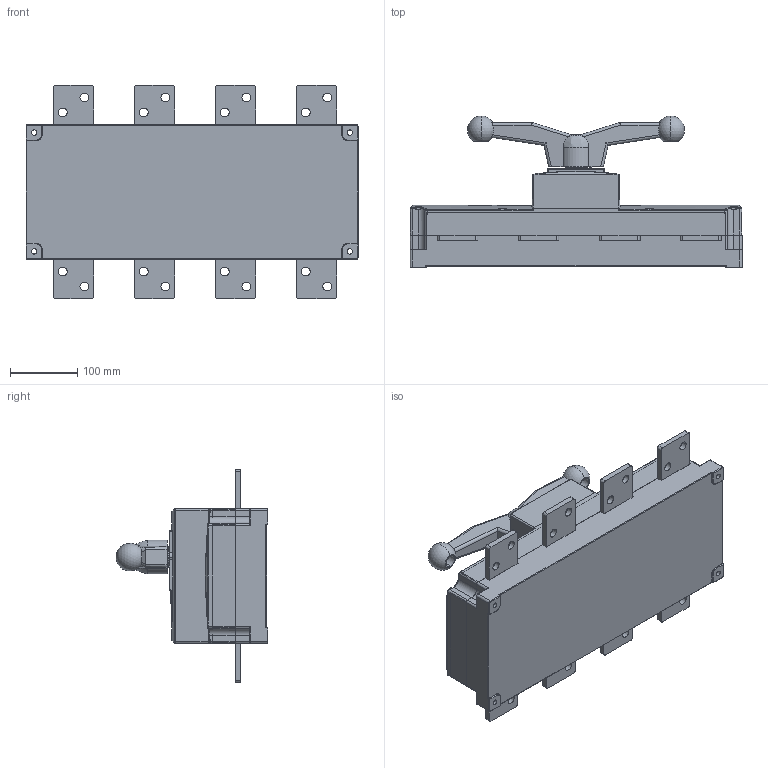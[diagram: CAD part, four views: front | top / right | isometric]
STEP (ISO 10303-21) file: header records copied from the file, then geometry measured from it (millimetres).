
FILE_DESCRIPTION((''),'2;1');
FILE_NAME('NH40-1000-4_4P_202403_ASM','2024-03-18T',('zhuanghy'),(''),'CREO PARAMETRIC BY PTC INC, 2018070','CREO PARAMETRIC BY PTC INC, 2018070','');
FILE_SCHEMA(('AUTOMOTIVE_DESIGN { 1 0 10303 214 1 1 1 1 }'));
Products named in the file (31): ASM0020_ASM_ASM_1_1_2_3_4_1; ASM0019_ASM_ASM_1_1_2_3_4_ASM_1_ASM; ASM0018_ASM_ASM_1_1_2_3_4_ASM_1_ASM; ASM0017_ASM_ASM_1_1_2_3_4_ASM_1_ASM; ASM0016_ASM_ASM_1_1_2_3_4_ASM_1_ASM; ASM0015_ASM_ASM_1_1_2_3_4_ASM_1_ASM; NH40-1000_ASM_ASM_1_1_2_3_4_ASM_ASM; NH40-1000_1600_202107_1_1_2_3_4; NH40-1000-3_ASM_1_ASM_ASM_ASM_3; NH40-1250-3_ASM_ASM_ASM_1_ASM_2_ASM; NH40-1250-3_ASM_ASM_1_ASM_1_1_A_ASM; NH40-1250-3_2020_10__ASM_1_AS_1_ASM; NH40-1250-3_3P_202104_ASM_1_1_A_ASM; NH40-1000-3_3P_202010_ASM_1_1_4_ASM; NH40-1000-3_ASM_1_ASM_ASM_ASM_4_ASM; NH40-1250-3_ASM_ASM_ASM_1_1_ASM_ASM; NH40-1250-3_ASM_ASM_1_1_ASM_1_ASM; NH40-1250-3_2020_10__ASM_1_1_AS_ASM; ASM0004_ASM_1_ASM; ASM0003_ASM_1_ASM; NH40-1600-4-022_68_1; 1600-4-ZG_27_1_1; PRT0067_1_1; PRT0068_1; PRT0069_1; ASM0007_ASM_1_ASM_ASM_1_ASM_ASM; NH40-1000-4_ASM_ASM_1_ASM_ASM; NH40-800-1000-4_ASM_1_ASM_ASM; NH40-800-1000-4_ASM_ASM; NH40-1000-4_4P_202010_ASM; NH40-1000-4_4P_202403_ASM
Assembly tree (37 placements, depth 10):
  NH40-1000-4_4P_202403_ASM
    ASM0003_ASM_1_ASM
      NH40-1000-3_3P_202010_ASM_1_1_4_ASM
        NH40-1000_ASM_ASM_1_1_2_3_4_ASM_ASM
          ASM0015_ASM_ASM_1_1_2_3_4_ASM_1_ASM
            ASM0016_ASM_ASM_1_1_2_3_4_ASM_1_ASM
              ASM0017_ASM_ASM_1_1_2_3_4_ASM_1_ASM
                ASM0018_ASM_ASM_1_1_2_3_4_ASM_1_ASM
                  ASM0019_ASM_ASM_1_1_2_3_4_ASM_1_ASM
        NH40-1000_1600_202107_1_1_2_3_4
        NH40-1250-3_3P_202104_ASM_1_1_A_ASM
          NH40-1250-3_2020_10__ASM_1_AS_1_ASM
            NH40-1250-3_ASM_ASM_1_ASM_1_1_A_ASM
              NH40-1250-3_ASM_ASM_ASM_1_ASM_2_ASM
                NH40-1000-3_ASM_1_ASM_ASM_ASM_3
      ASM0004_ASM_1_ASM
        NH40-1250-3_2020_10__ASM_1_1_AS_ASM
          NH40-1250-3_ASM_ASM_1_1_ASM_1_ASM
            NH40-1250-3_ASM_ASM_ASM_1_1_ASM_ASM
              NH40-1000-3_ASM_1_ASM_ASM_ASM_4_ASM
    NH40-1000-4_4P_202010_ASM
      NH40-800-1000-4_ASM_ASM
        NH40-800-1000-4_ASM_1_ASM_ASM
          NH40-1000-4_ASM_ASM_1_ASM_ASM
            ASM0007_ASM_1_ASM_ASM_1_ASM_ASM
              NH40-1600-4-022_68_1
              1600-4-ZG_27_1_1
              PRT0067_1_1
              PRT0068_1
              PRT0069_1  x8
Bounding box: 492 x 225 x 316 mm (x, y, z)
Volume: 12606380 mm3; surface area: 1399720.1 mm2
Topology: 13 solids, 16 shells, 2944 faces, 7609 edges, 4479 vertices
Faces by surface type: cylinder 1282, plane 1138, sphere 250, torus 144, bspline 96, cone 34
Entity records: 95515 total; most frequent: CARTESIAN_POINT 28883, ORIENTED_EDGE 13943, DIRECTION 13514, EDGE_CURVE 6976, AXIS2_PLACEMENT_3D 4751, VERTEX_POINT 4213, VECTOR 4012, LINE 4012
